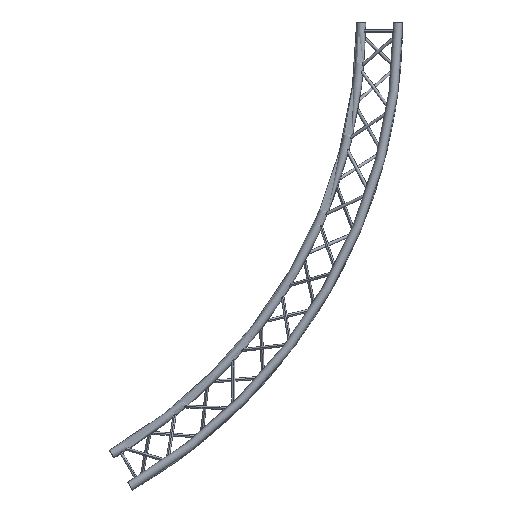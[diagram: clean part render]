
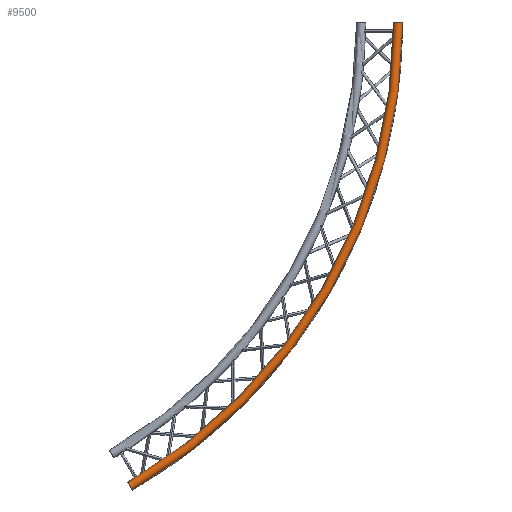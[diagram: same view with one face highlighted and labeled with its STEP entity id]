
A CAD part, front view. The second image highlights one B-rep face of the part: STEP entity #9500.
In plain terms, the highlighted toroidal (fillet/blend) face has major radius 2975 mm and minor radius 25 mm.
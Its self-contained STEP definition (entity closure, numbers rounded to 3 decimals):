
#4091 = DIRECTION ( 'NONE',  ( 0.5, 0., -0.866 ) ) ;
#4092 = DIRECTION ( 'NONE',  ( 0.866, 0., 0.5 ) ) ;
#4093 = CARTESIAN_POINT ( 'NONE',  ( 1487.5, -118.5, -2576.426 ) ) ;
#4094 = AXIS2_PLACEMENT_3D ( 'NONE', #4093, #4092, #4091 ) ;
#4095 = CIRCLE ( 'NONE', #4094, 25. ) ;
#4096 = CARTESIAN_POINT ( 'NONE',  ( 1475., -118.5, -2554.775 ) ) ;
#4097 = DIRECTION ( 'NONE',  ( 0., 0., -1. ) ) ;
#4098 = DIRECTION ( 'NONE',  ( 0., -1., 0. ) ) ;
#4099 = CARTESIAN_POINT ( 'NONE',  ( 0., -118.5, 0. ) ) ;
#4100 = AXIS2_PLACEMENT_3D ( 'NONE', #4099, #4098, #4097 ) ;
#4101 = TOROIDAL_SURFACE ( 'NONE', #4100, 2975., 25. ) ;
#4102 = FACE_OUTER_BOUND ( 'NONE', #9507, .T. ) ;
#4103 = CARTESIAN_POINT ( 'NONE',  ( 2950., -118.5, 0. ) ) ;
#4104 = DIRECTION ( 'NONE',  ( 0., 0., -1. ) ) ;
#4105 = DIRECTION ( 'NONE',  ( 0., -1., 0. ) ) ;
#4106 = CARTESIAN_POINT ( 'NONE',  ( 0., -118.5, 0. ) ) ;
#4107 = AXIS2_PLACEMENT_3D ( 'NONE', #4106, #4105, #4104 ) ;
#4112 = CIRCLE ( 'NONE', #4107, 2950. ) ;
#4145 = CARTESIAN_POINT ( 'NONE',  ( 1500., -118.5, -2598.076 ) ) ;
#4146 = CARTESIAN_POINT ( 'NONE',  ( 3000., -118.5, 0. ) ) ;
#4152 = DIRECTION ( 'NONE',  ( 0., 0., -1. ) ) ;
#4153 = DIRECTION ( 'NONE',  ( 0., -1., 0. ) ) ;
#4154 = CARTESIAN_POINT ( 'NONE',  ( 0., -118.5, 0. ) ) ;
#4155 = AXIS2_PLACEMENT_3D ( 'NONE', #4154, #4153, #4152 ) ;
#4156 = CIRCLE ( 'NONE', #4155, 3000. ) ;
#4801 = CIRCLE ( 'NONE', #4824, 25. ) ;
#4821 = DIRECTION ( 'NONE',  ( 1., 0., 0. ) ) ;
#4822 = DIRECTION ( 'NONE',  ( 0., 0., 1. ) ) ;
#4823 = CARTESIAN_POINT ( 'NONE',  ( 2975., -118.5, 0. ) ) ;
#4824 = AXIS2_PLACEMENT_3D ( 'NONE', #4823, #4822, #4821 ) ;
#9496 = EDGE_CURVE ( 'NONE', #9502, #9497, #4112, .T. ) ;
#9497 = VERTEX_POINT ( 'NONE', #4103 ) ;
#9498 = ORIENTED_EDGE ( 'NONE', *, *, #9496, .F. ) ;
#9499 = ORIENTED_EDGE ( 'NONE', *, *, #9577, .F. ) ;
#9500 = ADVANCED_FACE ( 'NONE', ( #4102 ), #4101, .T. ) ;
#9501 = EDGE_CURVE ( 'NONE', #9502, #9510, #4095, .T. ) ;
#9502 = VERTEX_POINT ( 'NONE', #4096 ) ;
#9503 = ORIENTED_EDGE ( 'NONE', *, *, #9504, .T. ) ;
#9504 = EDGE_CURVE ( 'NONE', #9510, #9508, #4156, .T. ) ;
#9506 = ORIENTED_EDGE ( 'NONE', *, *, #9501, .T. ) ;
#9507 = EDGE_LOOP ( 'NONE', ( #9506, #9503, #9499, #9498 ) ) ;
#9508 = VERTEX_POINT ( 'NONE', #4146 ) ;
#9510 = VERTEX_POINT ( 'NONE', #4145 ) ;
#9577 = EDGE_CURVE ( 'NONE', #9497, #9508, #4801, .T. ) ;
